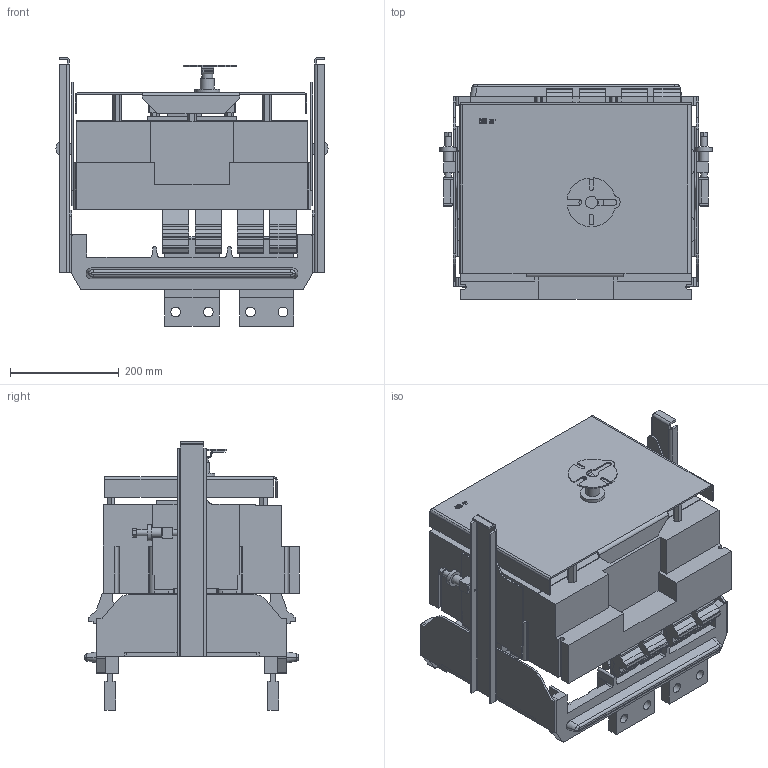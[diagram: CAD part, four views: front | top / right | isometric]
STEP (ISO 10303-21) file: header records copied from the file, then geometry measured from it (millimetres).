
FILE_DESCRIPTION (( 'STEP AP214' ), '1' );
FILE_NAME ('ÂÀ 56-43 DC âûäâèæíîå èñïîëíåíèå ñ ìåõàíè÷åñêèì ïðèâîäîì 1600À.STEP', '2023-02-13T06:18:47', ( '' ), ( '' ), 'SwSTEP 2.0', 'SolidWorks 2018', '' );
FILE_SCHEMA (( 'AUTOMOTIVE_DESIGN' ));
Length unit declared in the file: millimetre
Products named in the file (1): ÂÀ 56-43 DC âûäâèæíîå èñïîëíåíèå ñ ìåõàíè÷åñêèì ïðèâîäîì 1600À
Bounding box: 501 x 395 x 494.3 mm (x, y, z)
Volume: 31013860.5 mm3; surface area: 2316682.6 mm2
Topology: 3 solids, 3 shells, 1212 faces, 3616 edges, 2409 vertices
Faces by surface type: plane 885, cylinder 317, bspline 8, cone 2
Full cylindrical faces by diameter (mm): 12 x6, 12.2 x2, 13.2 x4, 18 x14, 20 x1, 25.7 x1, 30 x2, 45.6 x1
Entity records: 41136 total; most frequent: CARTESIAN_POINT 8027, ORIENTED_EDGE 7132, DIRECTION 6573, EDGE_CURVE 3566, VECTOR 2843, LINE 2843, VERTEX_POINT 2392, AXIS2_PLACEMENT_3D 1865
